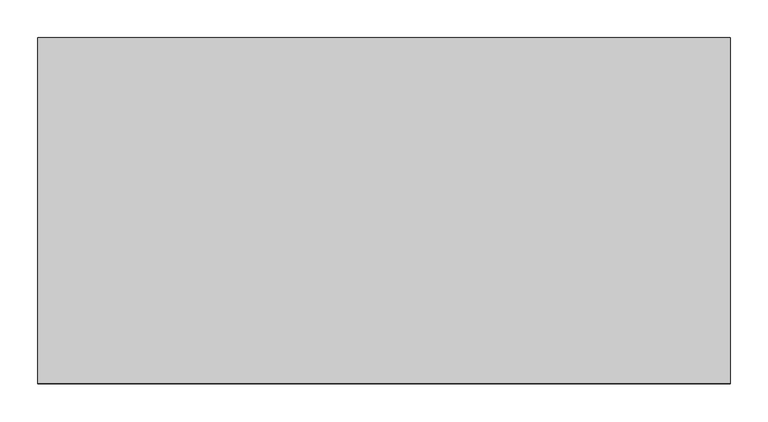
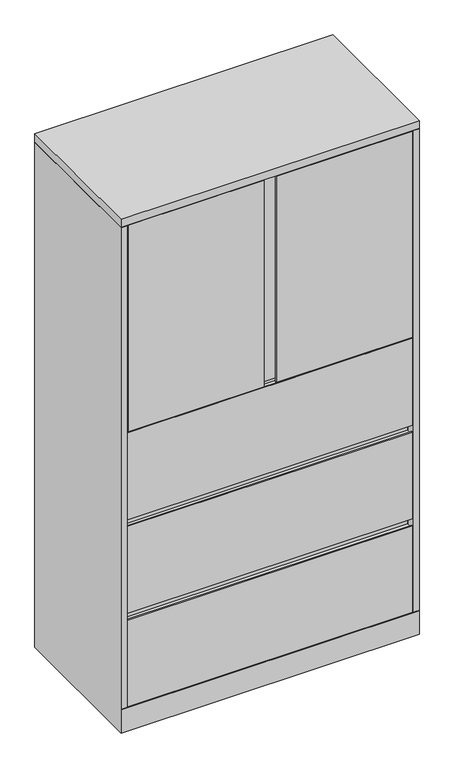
"""IFC4 building model written with IfcOpenShell, lengths in millimetres: furniture geometry, Steelcase - Universal Storage - Cabinet - Combination - Flush Steel : 65 1/2H - 3 Drawers - 18D x 36W."""

import ifcopenshell
import ifcopenshell.guid

model = None  # the IFC model being written
_history = None  # IfcOwnerHistory: only IFC2X3 demands one
_inside = {}  # id of a spatial element -> (the spatial element, [elements in it])
_under = {}  # id of a project, library or spatial element -> (it, [spatial elements below it])
_declared = {}  # id of a project -> (the project, [libraries it declares])
_typed = {}  # id of a type object -> (the type object, [elements of that type])
_made_of = {}  # id of a material, layer set ... -> (it, [elements and type objects made of it])


def new_model(schema):
    """Start an empty IFC model of exactly this schema.

    Asked for "IFC4X3", IfcOpenShell would pick the latest addendum, in which some entities
    have other attributes; the version numbers below select the first issue.
    IFC2X3 requires an IfcOwnerHistory on every rooted entity: one is made here for all.
    """
    global model, _history
    if schema == "IFC4X3":
        model = ifcopenshell.file(schema_version=(4, 3, 0, 0))
    else:
        model = ifcopenshell.file(schema=schema)
    _inside.clear()
    _under.clear()
    _declared.clear()
    _typed.clear()
    _made_of.clear()
    _history = None
    if model.schema == "IFC2X3":
        org = make("IfcOrganization", Name="unknown")
        user = make(
            "IfcPersonAndOrganization",
            ThePerson=make("IfcPerson", FamilyName="unknown"),
            TheOrganization=org,
        )
        app = make(
            "IfcApplication",
            ApplicationDeveloper=org,
            Version="unknown",
            ApplicationFullName="unknown",
            ApplicationIdentifier="unknown",
        )
        _history = make(
            "IfcOwnerHistory",
            OwningUser=user,
            OwningApplication=app,
            ChangeAction="ADDED",
            CreationDate=0,
        )
    return model


def make(cls, **values):
    """One entity of the class cls with the attributes given. An attribute that is None is left unset."""
    return model.create_entity(
        cls, **{name: value for name, value in values.items() if value is not None}
    )


def rooted(cls, **values):
    """An entity with a GlobalId (a new one), such as an element, a storey or a relation."""
    return make(cls, GlobalId=ifcopenshell.guid.new(), OwnerHistory=_history, **values)


def si_unit(unit_type, name, prefix=None):
    """IfcSIUnit, for example si_unit("LENGTHUNIT", "METRE", prefix="MILLI")."""
    return make("IfcSIUnit", UnitType=unit_type, Prefix=prefix, Name=name)


def assignment(units):
    """IfcUnitAssignment: the units of a project."""
    return None if units is None else make("IfcUnitAssignment", Units=units)


def point(xyz):
    """IfcCartesianPoint."""
    return None if xyz is None else make("IfcCartesianPoint", Coordinates=xyz)


def direction(xyz):
    """IfcDirection."""
    return None if xyz is None else make("IfcDirection", DirectionRatios=xyz)


def frame(location, z_axis=None, x_axis=None):
    """IfcAxis2Placement3D, a coordinate frame: its origin and axes. An axis left out is left unset."""
    return make(
        "IfcAxis2Placement3D",
        Location=point(location),
        Axis=direction(z_axis),
        RefDirection=direction(x_axis),
    )


def origin():
    """The frame at (0, 0, 0) with its axes left unset."""
    return frame((0.0, 0.0, 0.0))


def place(relative_to, where):
    """IfcLocalPlacement: puts the frame where relative to a parent placement (None: the world)."""
    return make(
        "IfcLocalPlacement", PlacementRelTo=relative_to, RelativePlacement=where
    )


def context(
    kind, dimensions, precision=None, world=None, true_north=None, identifier=None
):
    """IfcGeometricRepresentationContext, for example the 3D "Model" context."""
    return make(
        "IfcGeometricRepresentationContext",
        ContextIdentifier=identifier,
        ContextType=kind,
        CoordinateSpaceDimension=dimensions,
        Precision=precision,
        WorldCoordinateSystem=world,
        TrueNorth=true_north,
    )


def project(units=None, contexts=None):
    """IfcProject with its units and contexts."""
    return rooted(
        "IfcProject",
        Name="project",
        RepresentationContexts=contexts,
        UnitsInContext=assignment(units),
    )


def spatial(cls, under=None, at=None, **own):
    """A site, building, storey or space (cls), placed at a placement, below another one or the project."""
    s = rooted(cls, ObjectPlacement=at, **own)
    if under is not None:
        _under.setdefault(under.id(), (under, []))[1].append(s)
    return s


def polyline(points):
    """IfcPolyline through the points."""
    return make("IfcPolyline", Points=[point(p) for p in points])


def outline(outer, holes=None, kind="AREA"):
    """IfcArbitraryClosedProfileDef: a profile drawn as a closed curve; with holes, ...WithVoids."""
    if holes is None:
        return make("IfcArbitraryClosedProfileDef", ProfileType=kind, OuterCurve=outer)
    return make(
        "IfcArbitraryProfileDefWithVoids",
        ProfileType=kind,
        OuterCurve=outer,
        InnerCurves=holes,
    )


def extrude(swept, where, along, depth):
    """IfcExtrudedAreaSolid: the profile swept, set in the frame where, extruded along a direction by depth."""
    return make(
        "IfcExtrudedAreaSolid",
        SweptArea=swept,
        Position=where,
        ExtrudedDirection=direction(along),
        Depth=depth,
    )


def faces_of(points, faces, orient=None, outer=None):
    """IfcFace entities. A face is a list of loops; a loop is a list of indices into points, from 0.

    orient and outer hold one flag for each loop. By default every Orientation is true, the
    first loop of a face is its IfcFaceOuterBound and the others are IfcFaceBound.
    """
    made = []
    for i, loops in enumerate(faces):
        bounds = []
        for j, loop in enumerate(loops):
            is_outer = j == 0 if outer is None else outer[i][j]
            bounds.append(
                make(
                    "IfcFaceOuterBound" if is_outer else "IfcFaceBound",
                    Bound=make("IfcPolyLoop", Polygon=[points[k] for k in loop]),
                    Orientation=True if orient is None else orient[i][j],
                )
            )
        made.append(make("IfcFace", Bounds=bounds))
    return made


def faceted_brep(points, faces, orient=None, outer=None, voids=None):
    """IfcFacetedBrep: a solid bounded by flat faces; with voids (closed shells), ...WithVoids."""
    shared = [point(p) for p in points]
    hull = make("IfcClosedShell", CfsFaces=faces_of(shared, faces, orient, outer))
    if voids is None:
        return make("IfcFacetedBrep", Outer=hull)
    return make(
        "IfcFacetedBrepWithVoids",
        Outer=hull,
        Voids=[
            make(cls, CfsFaces=faces_of(shared, fs, o, b)) for cls, fs, o, b in voids
        ],
    )


def shape(context_of_items, identifier, shape_type, items):
    """IfcShapeRepresentation: the items that make up one representation, for example the "Body"."""
    return make(
        "IfcShapeRepresentation",
        ContextOfItems=context_of_items,
        RepresentationIdentifier=identifier,
        RepresentationType=shape_type,
        Items=items,
    )


def source(mapping_origin, context_of_items, identifier, shape_type, items):
    """IfcRepresentationMap: a shape defined once, which mapped items show again and again."""
    return make(
        "IfcRepresentationMap",
        MappingOrigin=mapping_origin,
        MappedRepresentation=shape(context_of_items, identifier, shape_type, items),
    )


def transform(
    local_origin,
    x_axis=None,
    y_axis=None,
    z_axis=None,
    scale=None,
    scale2=None,
    scale3=None,
    uniform=True,
):
    """IfcCartesianTransformationOperator3D, or its non-uniform kind. x_axis, y_axis, z_axis: its Axis1, 2, 3."""
    if uniform:
        return make(
            "IfcCartesianTransformationOperator3D",
            Axis1=direction(x_axis),
            Axis2=direction(y_axis),
            LocalOrigin=point(local_origin),
            Scale=scale,
            Axis3=direction(z_axis),
        )
    return make(
        "IfcCartesianTransformationOperator3DnonUniform",
        Axis1=direction(x_axis),
        Axis2=direction(y_axis),
        LocalOrigin=point(local_origin),
        Scale=scale,
        Axis3=direction(z_axis),
        Scale2=scale2,
        Scale3=scale3,
    )


def mapped(mapping_source, mapping_target):
    """IfcMappedItem: shows the shape of a source again, moved by a transform."""
    return make(
        "IfcMappedItem", MappingSource=mapping_source, MappingTarget=mapping_target
    )


def made_of(thing, what):
    """Note that an element or type object is made of a material, layer set ...; save() writes the relation."""
    if what is not None:
        _made_of.setdefault(what.id(), (what, []))[1].append(thing)
    return thing


def element(
    cls,
    number,
    at=None,
    inside=None,
    cuts=None,
    type_object=None,
    material=None,
    context=None,
    identifier="Body",
    shape_type=None,
    held_by="IfcProductDefinitionShape",
    body=None,
    shapes=None,
    **own,
):
    """One element of the class cls, such as IfcWall. Its Tag is "e" and its number.

    at: its placement. inside: the storey or other place that contains it. cuts: it is an
    opening in that element (IfcRelVoidsElement). A single representation is given by context,
    identifier, shape_type and body (its items); several are given by shapes. held_by: the class
    of the entity that holds the representations. save() writes the other relations.
    """
    e = rooted(cls, Tag="e%d" % number, ObjectPlacement=at, **own)
    if body is not None:
        shapes = [shape(context, identifier, shape_type, body)]
    if shapes is not None:
        e.Representation = make(held_by, Representations=shapes)
    if inside is not None:
        _inside.setdefault(inside.id(), (inside, []))[1].append(e)
    if cuts is not None:
        rooted(
            "IfcRelVoidsElement", RelatingBuildingElement=cuts, RelatedOpeningElement=e
        )
    if type_object is not None:
        _typed.setdefault(type_object.id(), (type_object, []))[1].append(e)
    return made_of(e, material)


def aggregate(whole, parts):
    """IfcRelAggregates: a whole, such as a stair, and the parts it consists of."""
    return rooted("IfcRelAggregates", RelatingObject=whole, RelatedObjects=parts)


def save(model, path):
    """Write the relations noted so far, then the file.

    IfcRelAggregates (storeys below a building ...), IfcRelContainedInSpatialStructure (elements
    in a storey), IfcRelDefinesByType, IfcRelAssociatesMaterial and IfcRelDeclares: one each for
    every whole, place, type object, material and project.
    """
    for whole, parts in _under.values():
        aggregate(whole, parts)
    for where, things in _inside.values():
        rooted(
            "IfcRelContainedInSpatialStructure",
            RelatedElements=things,
            RelatingStructure=where,
        )
    for kind, things in _typed.values():
        rooted("IfcRelDefinesByType", RelatedObjects=things, RelatingType=kind)
    for what, things in _made_of.values():
        rooted("IfcRelAssociatesMaterial", RelatedObjects=things, RelatingMaterial=what)
    for by, libraries in _declared.values():
        rooted("IfcRelDeclares", RelatingContext=by, RelatedDefinitions=libraries)
    model.write(path)


def furniture_11ac77c3(model_context):
    return source(origin(), model_context, "Body", "SolidModel", [
        extrude(outline(polyline([(21.8068168, -431.673866), (893.572, -431.673866), (893.572, -457.2), (476.25, -457.2), (476.25, -452.883482), (489.4189152, -452.883482), (489.4189152, -438.0238781), (438.15, -438.0238781), (438.15, -457.2), (21.8068168, -457.2), (21.8068168, -431.673866)])), frame((0.0, 0.0, 968.756), z_axis=(0.0, 0.0, 1.0), x_axis=(1.0, 0.0, 0.0)), (0.0, 0.0, 1.0), 668.02),
        extrude(outline(polyline([(914.4, 0.0), (914.4, -457.2), (0.0, -457.2), (0.0, 0.0), (914.4, 0.0)])), frame((0.0, 0.0, 1638.2999516), z_axis=(0.0, 0.0, 1.0), x_axis=(1.0, 0.0, 0.0)), (0.0, 0.0, 1.0), 25.4000484),
        extrude(outline(polyline([(-457.2, 358.7750484), (-454.0242491, 358.7750484), (-454.0242491, 349.2500484), (-431.673866, 349.2500484), (-431.673866, 381.0), (-430.1498674, 381.0), (-430.1498674, 349.2500484), (-430.1498674, 77.724), (-457.2, 77.724), (-457.2, 358.7750484)])), frame((20.8280006, 0.0, 0.0), z_axis=(1.0, 0.0, 0.0), x_axis=(0.0, 1.0, 0.0)), (0.0, 0.0, 1.0), 872.7439994),
        extrude(outline(polyline([(889.0000242, -25.4000008), (889.0000242, -430.1498674), (25.4000008, -430.1498674), (25.4000008, -25.4000008), (889.0000242, -25.4000008)])), frame((0.0, 0.0, 358.7750484), z_axis=(0.0, 0.0, 1.0), x_axis=(1.0, 0.0, 0.0)), (0.0, 0.0, 1.0), 22.2249516),
        extrude(outline(polyline([(889.0000242, -25.4000008), (889.0000242, -430.1498674), (25.4000008, -430.1498674), (25.4000008, -25.4000008), (889.0000242, -25.4000008)])), frame((0.0, 0.0, 1268.6030484), z_axis=(0.0, 0.0, 1.0), x_axis=(1.0, 0.0, 0.0)), (0.0, 0.0, 1.0), 22.2249516),
        extrude(outline(polyline([(-457.2, 965.3270484), (-454.0242491, 965.3270484), (-454.0242491, 955.8020484), (-431.673866, 955.8020484), (-431.673866, 987.552), (-430.1498674, 987.552), (-430.1498674, 955.8020484), (-430.1498674, 684.276), (-457.2, 684.276), (-457.2, 965.3270484)])), frame((20.8280006, 0.0, 0.0), z_axis=(1.0, 0.0, 0.0), x_axis=(0.0, 1.0, 0.0)), (0.0, 0.0, 1.0), 872.7439994),
        extrude(outline(polyline([(889.0000242, -25.4000008), (889.0000242, -430.1498674), (25.4000008, -430.1498674), (25.4000008, -25.4000008), (889.0000242, -25.4000008)])), frame((0.0, 0.0, 965.3270484), z_axis=(0.0, 0.0, 1.0), x_axis=(1.0, 0.0, 0.0)), (0.0, 0.0, 1.0), 22.2249516),
        extrude(outline(polyline([(-457.2, 662.0510484), (-454.0242491, 662.0510484), (-454.0242491, 652.5260484), (-431.673866, 652.5260484), (-431.673866, 684.276), (-430.1498674, 684.276), (-430.1498674, 652.5260484), (-430.1498674, 381.0), (-457.2, 381.0), (-457.2, 662.0510484)])), frame((20.8280006, 0.0, 0.0), z_axis=(1.0, 0.0, 0.0), x_axis=(0.0, 1.0, 0.0)), (0.0, 0.0, 1.0), 872.7439994),
        faceted_brep([(914.4, 0.0, 0.0), (914.4, -457.2, 0.0), (0.0, -457.2, 0.0), (0.0, 0.0, 0.0), (0.0, 0.0, 1636.776), (914.4, 0.0, 1636.776), (0.0, -457.2, 76.2), (0.0, -457.2, 77.724), (0.0, -457.2, 1636.776), (914.4, -457.2, 76.2), (914.4, -457.2, 1636.776), (914.4, -457.2, 77.724), (889.0000242, -25.4000008, 1636.776), (889.0000242, -430.1498674, 1636.776), (893.572, -430.1498674, 1636.776), (893.572, -431.6738781, 1636.776), (895.096, -431.6738781, 1636.776), (895.096, -457.2, 1636.776), (19.304, -457.2, 1636.776), (19.304, -431.673866, 1636.776), (20.8280006, -431.673866, 1636.776), (20.8280006, -430.1498674, 1636.776), (25.4000008, -430.1498674, 1636.776), (25.4000008, -25.4000008, 1636.776), (19.304, -457.2, 77.724), (19.304, -437.896, 77.724), (895.096, -457.2, 77.724), (895.096, -437.7698418, 77.724), (889.0000242, -25.4000008, 77.724), (889.0000242, -430.1498674, 77.724), (893.572, -430.1498674, 77.724), (893.572, -431.6738781, 77.724), (895.096, -431.6738781, 77.724), (19.304, -431.673866, 77.724), (20.8280006, -431.673866, 77.724), (20.8280006, -430.1498674, 77.724), (25.4000008, -430.1498674, 77.724), (25.4000008, -25.4000008, 77.724), (25.526134, -431.673866, 77.724), (889.0000242, -431.673866, 77.724)], [[[0, 1, 2, 3]], [[0, 3, 4, 5]], [[4, 3, 2, 6, 7, 8]], [[2, 1, 9, 6]], [[1, 0, 5, 10, 11, 9]], [[12, 13, 14, 15, 16, 17, 10, 5, 4, 8, 18, 19, 20, 21, 22, 23]], [[24, 7, 25]], [[11, 26, 27]], [[13, 12, 28, 29]], [[14, 13, 29, 30]], [[15, 14, 30, 31]], [[16, 15, 31, 32]], [[17, 16, 32, 27, 26]], [[10, 17, 26, 11]], [[18, 8, 7, 24]], [[19, 18, 24, 25, 33]], [[20, 19, 33, 34]], [[21, 20, 34, 35]], [[22, 21, 35, 36]], [[23, 22, 36, 37]], [[12, 23, 37, 28]], [[38, 39, 27, 32, 31, 30, 29, 28, 37, 36, 35, 34, 33, 25]], [[7, 6, 38, 25]], [[39, 38, 6, 9]], [[39, 9, 11, 27]]]),
    ])


if __name__ == "__main__":
    model = new_model("IFC4")
    model_context = context("Model", 3, world=origin())
    ifc_project = project(units=[si_unit("LENGTHUNIT", "METRE", prefix="MILLI")], contexts=[model_context])
    site = spatial("IfcSite", under=ifc_project)
    building = spatial("IfcBuilding", under=site)
    placement = place(None, origin())
    furniture_shape = furniture_11ac77c3(model_context)
    element("IfcFurniture", 1, ObjectType="Steelcase - Universal Storage - Cabinet - Combination - Flush Steel : 65 1/2H - 3 Drawers - 18D x 36W", at=placement, inside=building, context=model_context, shape_type="MappedRepresentation", body=[
        mapped(furniture_shape, transform((0.0, 0.0, 0.0), x_axis=(1.0, 0.0, 0.0), y_axis=(0.0, 1.0, 0.0), z_axis=(0.0, 0.0, 1.0))),
    ])
    save(model, "model.ifc")
